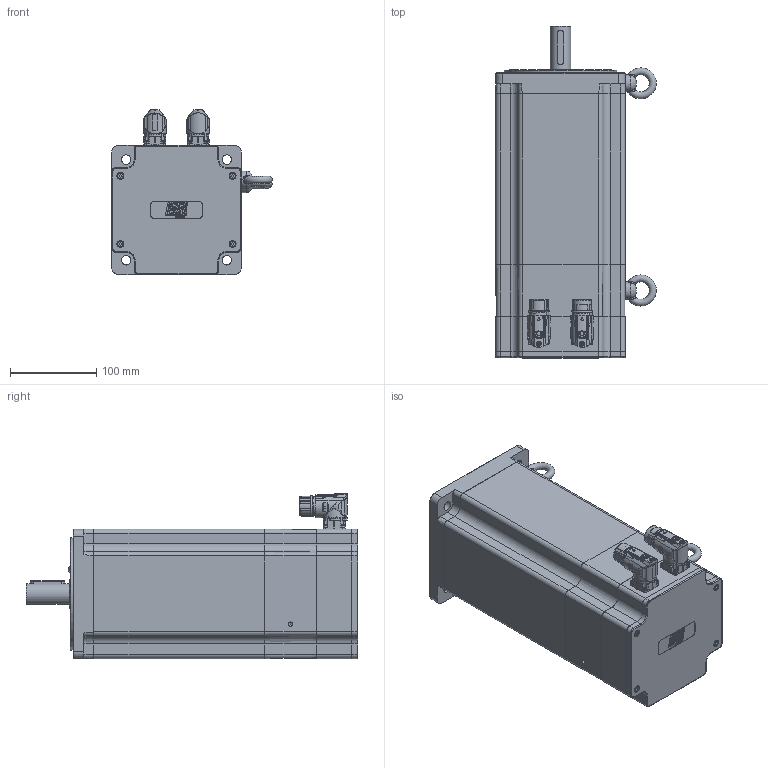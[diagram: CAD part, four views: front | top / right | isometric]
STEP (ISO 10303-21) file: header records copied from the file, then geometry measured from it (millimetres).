
FILE_DESCRIPTION(/* description */ ('Unknown'),/* implementation_level */ '2;1');
FILE_NAME(/* name */ 'TC4-150.6C.XX.X.3.M1.1.X.G2.00.00 Q0B753',/* time_stamp */ '2026-03-06T12:00:08+01:00',/* author */ ('Unknown'),/* organization */ ('Unknown'),/* preprocessor_version */ 'ST-DEVELOPER v19.4',/* originating_system */ 'Solid Edge',/* authorisation */ 'Unknown');
FILE_SCHEMA (('AUTOMOTIVE_DESIGN {1 0 10303 214 3 1 1}'));
Products named in the file (15): Q0B753 6C FRENO M1 VUOTO; 003155002228; 005113000600; 005321000040; 005911000252; 003003200234; 003103040225; 005911000185; 005911000223; 007117000456; Coperchio campana TC4-150; 007117000454; 005119002043; 003151003192; 003251040619
Assembly tree (28 placements, depth 2):
  Q0B753 6C FRENO M1 VUOTO
    003155002228
    005113000600
    005321000040  x2
    005911000252  x4
    003003200234
    003103040225
    005911000185  x8
    005911000223  x4
    007117000456
    Coperchio campana TC4-150
    007117000454
    005119002043
    003151003192
    003251040619
Bounding box: 185.99 x 384.5 x 191.51 mm (x, y, z)
Volume: 2282965.6 mm3; surface area: 613695 mm2
Topology: 28 solids, 29 shells, 2434 faces, 6081 edges, 3864 vertices
Faces by surface type: plane 1010, cylinder 526, bspline 412, cone 285, torus 152, sphere 49
Full cylindrical faces by diameter (mm): 0.5 x1, 1 x21, 1.2 x17, 1.4 x4, 2 x4, 2.013 x8, 2.459 x2, 2.5 x8, 2.8 x4, 3 x12, 3.2 x1, 3.242 x12, 4 x4, 4.134 x8, 4.2 x1, 4.5 x10, 4.7 x8, 4.917 x12, 5 x6, 5.5 x10, 5.8 x1, 5.9 x2, 6 x3, 6.647 x2, 6.8 x1, 7 x4, 8 x4, 8.4 x1, 8.5 x4, 9 x4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
Entity records: 89597 total; most frequent: CARTESIAN_POINT 26026, ORIENTED_EDGE 10120, DIRECTION 9065, EDGE_CURVE 5060, AXIS2_PLACEMENT_3D 3504, VERTEX_POINT 3454, FACE_BOUND 2914, EDGE_LOOP 2891
